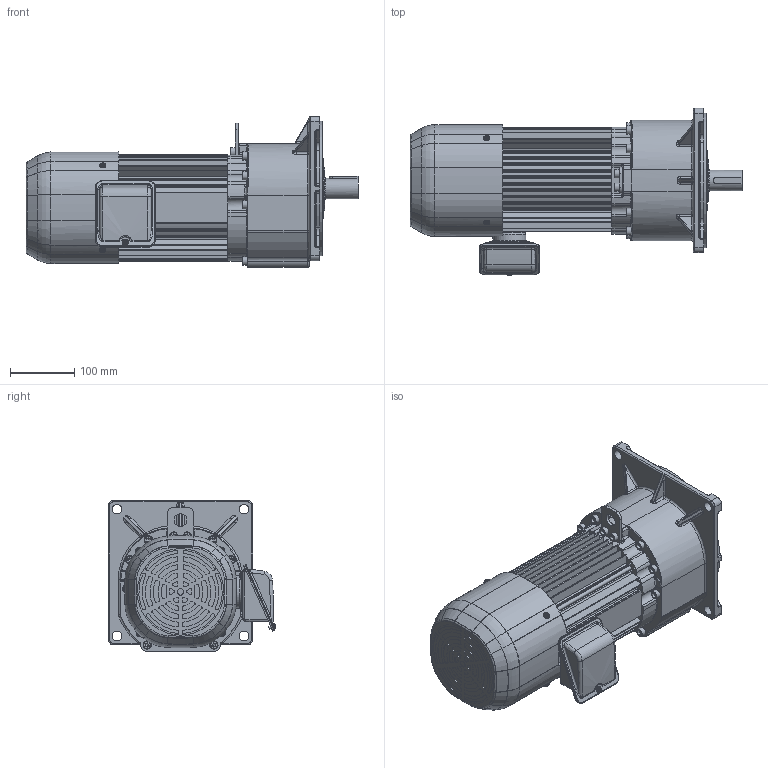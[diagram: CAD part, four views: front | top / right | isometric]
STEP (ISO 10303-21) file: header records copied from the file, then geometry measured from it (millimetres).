
FILE_DESCRIPTION( ( 'Unknown' ), '1' );
FILE_NAME( 'X:/gear/gm/3D-WEB/IE3/SP/ﾊﾟｰﾂ/完成品/spfb_15_40-50.stp', 'Unknown', ( 'Unknown' ), ( 'Unknown' ), 'PSStep 14.0', 'Unknown', ' ' );
FILE_SCHEMA( ( 'AUTOMOTIVE_DESIGN { 1 0 10303 214 1 1 1 1 }' ) );
Length unit declared in the file: millimetre
Products named in the file (7): 六角穴付ボルト(M8X16)
Bounding box: 518 x 260.85 x 235.5 mm (x, y, z)
Volume: 7862373.7 mm3; surface area: 928381.3 mm2
Topology: 7 solids, 39 shells, 2042 faces, 4972 edges, 3068 vertices
Faces by surface type: cylinder 855, plane 677, torus 252, bspline 152, cone 74, sphere 32
Full cylindrical faces by diameter (mm): 3.8 x6, 4.2 x8, 4.8 x1, 4.917 x4, 5.5 x4, 5.6 x1, 5.8 x4, 6 x12, 6.8 x9, 7 x7, 8 x16, 8.2 x1, 8.5 x2, 9 x8, 10 x16, 13 x10, 15 x4, 20 x1, 23 x1, 25 x3, 28.6 x1, 32 x1, 34 x1, 34.5 x1, 35 x3, 42 x2, 46 x1, 47 x2, 48 x2, 50 x1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
Entity records: 95940 total; most frequent: CARTESIAN_POINT 32457, DIRECTION 10593, ORIENTED_EDGE 9184, EDGE_CURVE 4592, AXIS2_PLACEMENT_3D 4326, VERTEX_POINT 2974, EDGE_LOOP 2409, CIRCLE 2387
